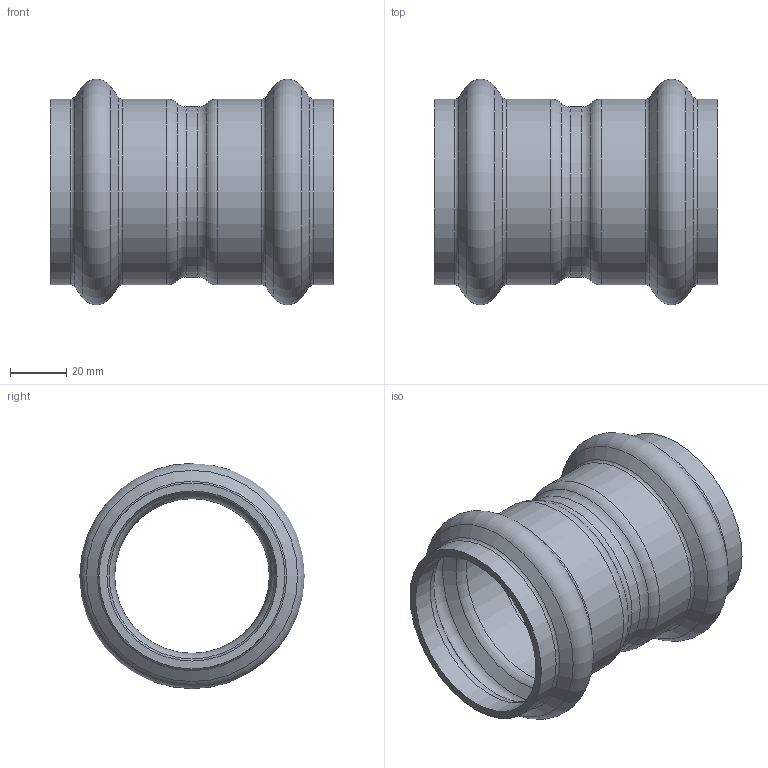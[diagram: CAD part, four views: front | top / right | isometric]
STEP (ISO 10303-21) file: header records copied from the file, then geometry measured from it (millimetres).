
FILE_DESCRIPTION(/* description */ ('VIC COUPLING STYLE P507 STD P X P','CAx-IF Rec.Pracs.---Representation and Presentation of Product Manufacturing Information (PMI)---4.0---2014-10-13'),/* implementation_level */ '2;1');
FILE_NAME(/* name */ 'C:\Users\kkamble\AppData\Roaming\Autodesk\ApplicationPlugins\Back Up\Victaulic_SS-Vic-Press-TP 316_Coupling Standard_Style P507 (VP)\Victaulic_SS-Vic-Press-TP 316_Coupling Standard_Style P507 (VP)_2 (50).stp',/* time_stamp */ '2020-08-14T11:54:53+05:00',/* author */ ('cgray'),/* organization */ ('Victaulic'),/* preprocessor_version */ 'ST-DEVELOPER v17.2',/* originating_system */ 'Autodesk Inventor 2019',/* authorisation */ '');
FILE_SCHEMA (('AP242_MANAGED_MODEL_BASED_3D_ENGINEERING_MIM_LF { 1 0 10303 442 1 1 4 }'));
Length unit declared in the file: inch
Products named in the file (1): P507-02.0
Bounding box: 100.58 x 79.89 x 79.89 mm (x, y, z)
Volume: 65067.1 mm3; surface area: 48101.2 mm2
Topology: 1 solids, 1 shells, 40 faces, 150 edges, 112 vertices
Faces by surface type: torus 20, cylinder 10, cone 8, plane 2
Full cylindrical faces by diameter (mm): 54.788 x1, 60.325 x5, 65.862 x4
Entity records: 1910 total; most frequent: DIRECTION 390, CARTESIAN_POINT 320, ORIENTED_EDGE 300, AXIS2_PLACEMENT_3D 186, EDGE_CURVE 150, CIRCLE 132, VERTEX_POINT 112, EDGE_LOOP 42
